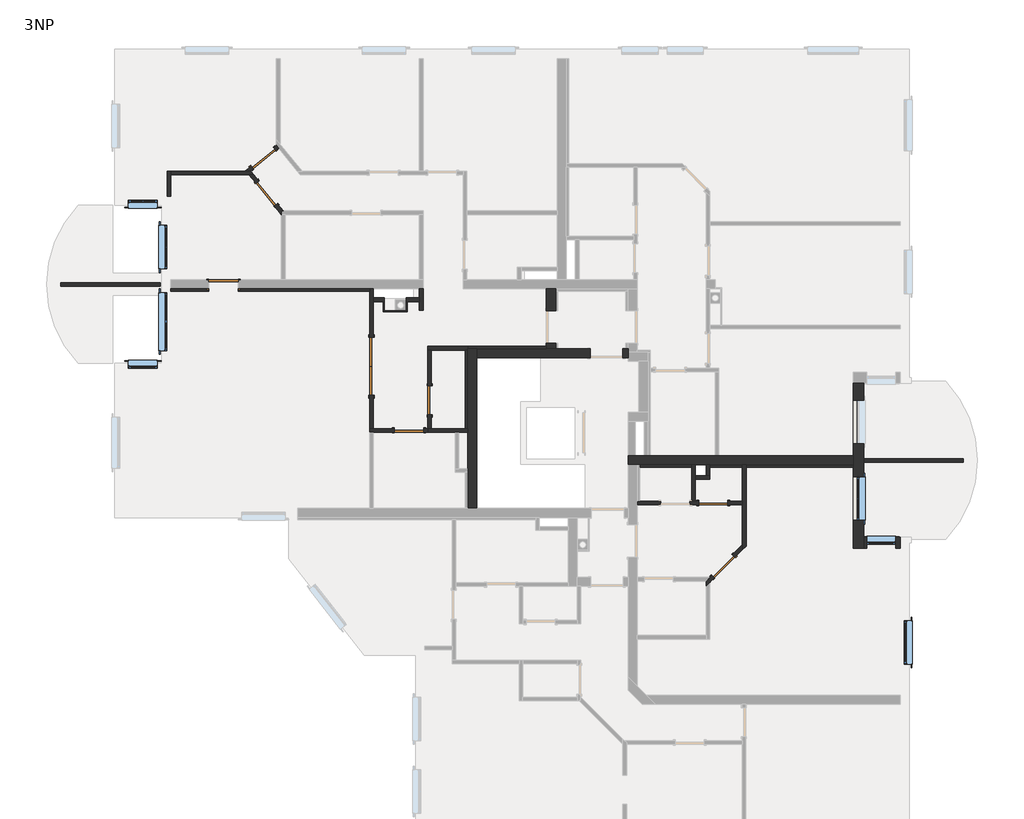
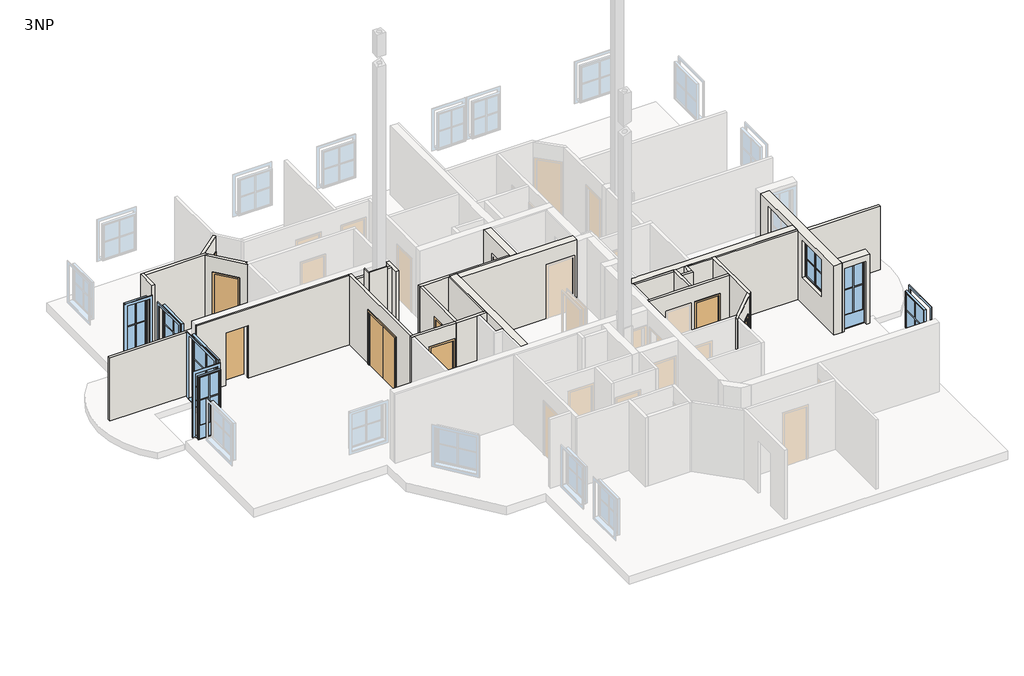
# One storey, part 2 of 4: 35 walls, 8 doors, 7 windows.
"""IFC4 building model written with IfcOpenShell, lengths in millimetres."""

from ifc_helpers import new_model, si_unit, frame, origin, place, context, project, spatial, polyline, outline, extrude, faceted_brep, transform, mapped, element, save
from components import door_1600_x_2000mm_ba48827e, sd_800x2000_6a16926d, sd_800x2000_80f4ff25, sd_800x2000_0203fe2f, standard_window_with_mullions_80486b60, window_1_87741a49, window_2_4fa60929, window_2_775565f5

model = new_model("IFC4")

# Units and contexts
model_context = context("Model", 3, world=origin())
ifc_project = project(units=[si_unit("LENGTHUNIT", "METRE", prefix="MILLI")], contexts=[model_context])

# Site, building, storey
site = spatial("IfcSite", under=ifc_project)
building = spatial("IfcBuilding", under=site)
storey = spatial("IfcBuildingStorey", under=building, Name="3NP", Elevation=5900.0)

# Doors
placement = place(None, origin())
door_1600_x_2000mm_shape = door_1600_x_2000mm_ba48827e(model_context)
element("IfcDoor", 1, ObjectType="DvoukridleOtevirave : 1600 x 2000mm", at=placement, inside=storey, context=model_context, shape_type="MappedRepresentation", body=[
    mapped(door_1600_x_2000mm_shape, transform((-5507.1962165, 2081.2918521, 5900.0), x_axis=(0.0, 1.0, 0.0), y_axis=(-1.0, 0.0, 0.0), z_axis=(0.0, 0.0, 1.0))),
])
sd_800x2000_shape = sd_800x2000_6a16926d(model_context)
element("IfcDoor", 2, ObjectType="JednokridlePlne : SD 800x2000", at=placement, inside=storey, context=model_context, shape_type="MappedRepresentation", body=[
    mapped(sd_800x2000_shape, transform((4190.1336236, -3425.7517839, 5900.0), x_axis=(0.7071067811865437, 0.7071067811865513, 0.0), y_axis=(-0.7071067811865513, 0.7071067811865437, 0.0), z_axis=(0.0, 0.0, 1.0))),
])
element("IfcDoor", 3, ObjectType="JednokridlePlne : SD 800x2000", at=placement, inside=storey, context=model_context, shape_type="MappedRepresentation", body=[
    mapped(sd_800x2000_shape, transform((3909.4426418, -1682.3709459, 5900.0), x_axis=(1.0, 0.0, 0.0), y_axis=(0.0, 1.0, 0.0), z_axis=(0.0, 0.0, 1.0))),
])
element("IfcDoor", 4, ObjectType="JednokridlePlne : SD 800x2000", at=placement, inside=storey, context=model_context, shape_type="MappedRepresentation", body=[
    mapped(sd_800x2000_shape, transform((-8487.7895253, 7819.2928874, 5900.0), x_axis=(0.774832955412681, 0.6321660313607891, 0.0), y_axis=(-0.6321660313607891, 0.774832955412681, 0.0), z_axis=(0.0, 0.0, 1.0))),
])
element("IfcDoor", 5, ObjectType="JednokridlePlne : SD 800x2000", at=placement, inside=storey, context=model_context, shape_type="MappedRepresentation", body=[
    mapped(sd_800x2000_shape, transform((-8399.7238913, 6849.2373561, 5900.0), x_axis=(0.632166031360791, -0.7748329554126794, 0.0), y_axis=(0.7748329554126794, 0.632166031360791, 0.0), z_axis=(0.0, 0.0, 1.0))),
])
sd_800x2000_2_shape = sd_800x2000_80f4ff25(model_context)
element("IfcDoor", 6, ObjectType="JednokridlePlne : SD 800x2000", at=placement, inside=storey, context=model_context, shape_type="MappedRepresentation", body=[
    mapped(sd_800x2000_2_shape, transform((-3907.1962165, 1147.6290512, 5900.0), x_axis=(0.0, 0.9999999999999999, 0.0), y_axis=(-0.9999999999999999, 0.0, 0.0), z_axis=(0.0, 0.0, 1.0))),
])
element("IfcDoor", 7, ObjectType="JednokridlePlne : SD 800x2000", at=placement, inside=storey, context=model_context, shape_type="MappedRepresentation", body=[
    mapped(sd_800x2000_2_shape, transform((-4475.9642734, 317.6290541, 5900.0), x_axis=(-0.9999999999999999, 0.0, 0.0), y_axis=(0.0, -0.9999999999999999, 0.0), z_axis=(0.0, 0.0, 1.0))),
])
sd_800x2000_3_shape = sd_800x2000_0203fe2f(model_context)
element("IfcDoor", 8, ObjectType="JednokridlePlne : SD 800x2000", at=placement, inside=storey, context=model_context, shape_type="MappedRepresentation", body=[
    mapped(sd_800x2000_3_shape, transform((-9588.4360939, 4342.6290541, 5900.0), x_axis=(-1.0, 0.0, 0.0), y_axis=(0.0, -1.0, 0.0), z_axis=(0.0, 0.0, 1.0))),
])

# Walls
element("IfcWall", 9, ObjectType="Exterior - 100mm", at=placement, inside=storey, context=model_context, shape_type="SweptSolid", body=[
    extrude(outline(polyline([(-14076.3140436, 4392.6290541), (-11337.1962165, 4392.6290541), (-11337.1962165, 4292.6290541), (-14076.3140436, 4292.6290541), (-14076.3140436, 4392.6290541)])), frame((0.0, 0.0, 5900.0), z_axis=(0.0, 0.0, 1.0), x_axis=(1.0, 0.0, 0.0)), (0.0, 0.0, 1.0), 2400.0),
])
element("IfcWall", 10, ObjectType="Exterior - 100mm", at=placement, inside=storey, context=model_context, shape_type="SweptSolid", body=[
    extrude(outline(polyline([(10801.9216105, -557.3709459), (8062.8037835, -557.3709459), (8062.8037835, -457.3709459), (10801.9216105, -457.3709459), (10801.9216105, -557.3709459)])), frame((0.0, 0.0, 5900.0), z_axis=(0.0, 0.0, 1.0), x_axis=(1.0, 0.0, 0.0)), (0.0, 0.0, 1.0), 2400.0),
])
element("IfcWall", 11, ObjectType="Exterior - 250 + 50mm", at=placement, inside=storey, context=model_context, shape_type="Brep", body=[
    faceted_brep([(7762.8037835, 1617.6290541, 5900.0), (7762.8037835, -382.3709459, 5900.0), (7762.8037835, -632.3709459, 5900.0), (7762.8037835, -697.3709459, 5900.0), (7762.8037835, -2932.3709459, 5900.0), (7762.8037835, -2932.3709459, 8530.0), (7762.8037835, -697.3709459, 8530.0), (7762.8037835, -632.3709459, 8530.0), (7762.8037835, -382.3709459, 8530.0), (7762.8037835, 1617.6290541, 8530.0), (7762.8037835, 1155.9947187, 6900.0), (7762.8037835, 1155.9947187, 8300.0), (7762.8037835, -44.0052813, 8300.0), (7762.8037835, -44.0052813, 6900.0), (7762.8037835, -963.5367865, 6900.0), (7762.8037835, -963.5367865, 8300.0), (7762.8037835, -2163.5367865, 8300.0), (7762.8037835, -2163.5367865, 6900.0), (8062.8037835, -2932.3709459, 8530.0), (8062.8037835, -2932.3709459, 5900.0), (8062.8037835, -2632.3709459, 5900.0), (8062.8037835, -557.3709459, 5900.0), (8062.8037835, -457.3709459, 5900.0), (8062.8037835, 1617.6290541, 5900.0), (8062.8037835, 1617.6290541, 8530.0), (8062.8037835, -2632.3709459, 8530.0), (8062.8037835, 1155.9947187, 8300.0), (8062.8037835, 1155.9947187, 6900.0), (8062.8037835, -44.0052813, 6900.0), (8062.8037835, -44.0052813, 8300.0), (8062.8037835, -963.5367865, 8300.0), (8062.8037835, -963.5367865, 6900.0), (8062.8037835, -2163.5367865, 6900.0), (8062.8037835, -2163.5367865, 8300.0)], [[[0, 1, 2, 3, 4, 5, 6, 7, 8, 9], [10, 11, 12, 13], [14, 15, 16, 17]], [[18, 19, 20, 21, 22, 23, 24, 25], [26, 27, 28, 29], [30, 31, 32, 33]], [[4, 3, 2, 1, 0, 23, 22, 21, 20, 19]], [[5, 4, 19, 18]], [[0, 9, 24, 23]], [[24, 9, 8, 7, 6, 5, 18, 25]], [[11, 10, 27, 26]], [[12, 11, 26, 29]], [[13, 12, 29, 28]], [[10, 13, 28, 27]], [[15, 14, 31, 30]], [[16, 15, 30, 33]], [[17, 16, 33, 32]], [[14, 17, 32, 31]]]),
])
element("IfcWall", 12, ObjectType="Exterior - 250+50mm", at=placement, inside=storey, context=model_context, shape_type="SweptSolid", body=[
    extrude(outline(polyline([(8530.0, 8062.8037835), (5900.0, 8062.8037835), (5900.0, 8132.977935), (8300.0, 8132.977935), (8300.0, 8932.977935), (5900.0, 8932.977935), (5900.0, 9062.8037835), (8530.0, 9062.8037835), (8530.0, 8062.8037835)])), frame((0.0, -2932.3709459, 0.0), z_axis=(0.0, 1.0, 0.0), x_axis=(0.0, 0.0, 1.0)), (0.0, 0.0, 1.0), 300.0),
])
element("IfcWall", 13, ObjectType="Interior - 100mm", at=placement, inside=storey, context=model_context, shape_type="Brep", body=[
    faceted_brep([(-4187.1962165, 3967.6290541, 5900.0), (-4557.1962165, 3967.6290541, 5900.0), (-4557.1962165, 3967.6290541, 8530.0), (-4357.1962165, 3967.6290541, 8530.0), (-4187.1962165, 3967.6290541, 8530.0), (-4187.1962165, 3867.6290541, 5900.0), (-4187.1962165, 3867.6290541, 8530.0), (-4557.1962165, 3867.6290541, 8530.0), (-4557.1962165, 3867.6290541, 5900.0), (-4527.1962165, 3867.6290541, 5900.0)], [[[0, 1, 2, 3, 4]], [[5, 6, 7, 8, 9]], [[1, 0, 5, 9, 8]], [[2, 1, 8, 7]], [[0, 4, 6, 5]], [[4, 3, 2, 7, 6]]]),
])
element("IfcWall", 14, ObjectType="Interior - 100mm", at=placement, inside=storey, context=model_context, shape_type="Brep", body=[
    faceted_brep([(-5157.1962165, 3967.6290541, 5900.0), (-5457.1962165, 3967.6290541, 5900.0), (-5457.1962165, 3967.6290541, 8530.0), (-5157.1962165, 3967.6290541, 8530.0), (-5157.1962165, 3867.6290541, 5900.0), (-5157.1962165, 3867.6290541, 8530.0), (-5457.1962165, 3867.6290541, 8530.0), (-5457.1962165, 3867.6290541, 5900.0), (-5187.1962165, 3867.6290541, 5900.0)], [[[0, 1, 2, 3]], [[4, 5, 6, 7, 8]], [[1, 0, 4, 8, 7]], [[0, 3, 5, 4]], [[2, 1, 7, 6]], [[3, 2, 6, 5]]]),
])
element("IfcWall", 15, ObjectType="Interior - 100mm", at=placement, inside=storey, context=model_context, shape_type="Brep", body=[
    faceted_brep([(-5557.1962165, 4217.6290541, 5900.0), (-5557.1962165, 4152.6290541, 5900.0), (-5557.1962165, 2881.2918521, 5900.0), (-5557.1962165, 2881.2918521, 7900.0), (-5557.1962165, 1281.2918521, 7900.0), (-5557.1962165, 1281.2918521, 5900.0), (-5557.1962165, 367.6290541, 5900.0), (-5557.1962165, 367.6290541, 8530.0), (-5557.1962165, 4152.6290541, 8530.0), (-5557.1962165, 4217.6290541, 8530.0), (-5457.1962165, 2881.2918521, 7900.0), (-5457.1962165, 2881.2918521, 5900.0), (-5457.1962165, 3867.6290541, 5900.0), (-5457.1962165, 3967.6290541, 5900.0), (-5457.1962165, 4217.6290541, 5900.0), (-5457.1962165, 4217.6290541, 8530.0), (-5457.1962165, 3967.6290541, 8530.0), (-5457.1962165, 3867.6290541, 8530.0), (-5457.1962165, 367.6290541, 8530.0), (-5457.1962165, 367.6290541, 5900.0), (-5457.1962165, 1281.2918521, 5900.0), (-5457.1962165, 1281.2918521, 7900.0)], [[[0, 1, 2, 3, 4, 5, 6, 7, 8, 9]], [[10, 11, 12, 13, 14, 15, 16, 17, 18, 19, 20, 21]], [[14, 13, 12, 11, 2, 1, 0]], [[20, 19, 6, 5]], [[0, 9, 15, 14]], [[7, 6, 19, 18]], [[9, 8, 7, 18, 17, 16, 15]], [[3, 2, 11, 10]], [[4, 3, 10, 21]], [[5, 4, 21, 20]]]),
])
element("IfcWall", 16, ObjectType="Interior - 100mm", at=placement, inside=storey, context=model_context, shape_type="Brep", body=[
    faceted_brep([(-3957.1962165, 267.6290541, 5900.0), (-3207.1962165, 267.6290541, 5900.0), (-3107.1962165, 267.6290541, 5900.0), (-2857.1962165, 267.6290541, 5900.0), (-2857.1962165, 267.6290541, 8530.0), (-3107.1962165, 267.6290541, 8530.0), (-3207.1962165, 267.6290541, 8530.0), (-3957.1962165, 267.6290541, 8530.0), (-3957.1962165, 367.6290541, 5900.0), (-3957.1962165, 367.6290541, 8530.0), (-3857.1962165, 367.6290541, 8530.0), (-2922.1962165, 367.6290541, 8530.0), (-2857.1962165, 367.6290541, 8530.0), (-2857.1962165, 367.6290541, 5900.0), (-2922.1962165, 367.6290541, 5900.0), (-3857.1962165, 367.6290541, 5900.0)], [[[0, 1, 2, 3, 4, 5, 6, 7]], [[8, 9, 10, 11, 12, 13, 14, 15]], [[3, 2, 1, 0, 8, 15, 14, 13]], [[0, 7, 9, 8]], [[4, 3, 13, 12]], [[7, 6, 5, 4, 12, 11, 10, 9]]]),
])
element("IfcWall", 17, ObjectType="Interior - 100mm", at=placement, inside=storey, context=model_context, shape_type="Brep", body=[
    faceted_brep([(-4187.1962165, 4217.6290541, 5900.0), (-4187.1962165, 3967.6290541, 5900.0), (-4187.1962165, 3867.6290541, 5900.0), (-4187.1962165, 3632.0533539, 5900.0), (-4187.1962165, 3632.0533539, 8530.0), (-4187.1962165, 3867.6290541, 8530.0), (-4187.1962165, 3967.6290541, 8530.0), (-4187.1962165, 4217.6290541, 8530.0), (-4087.1962165, 4217.6290541, 5900.0), (-4087.1962165, 4217.6290541, 8530.0), (-4087.1962165, 3632.0533539, 8530.0), (-4087.1962165, 3632.0533539, 5900.0)], [[[0, 1, 2, 3, 4, 5, 6, 7]], [[8, 9, 10, 11]], [[3, 2, 1, 0, 8, 11]], [[4, 3, 11, 10]], [[0, 7, 9, 8]], [[7, 6, 5, 4, 10, 9]]]),
])
element("IfcWall", 18, ObjectType="Interior - 100mm", at=placement, inside=storey, context=model_context, shape_type="Brep", body=[
    faceted_brep([(-2857.1962165, 2632.6290541, 5900.0), (-3957.1962165, 2632.6290541, 5900.0), (-3957.1962165, 2632.6290541, 8530.0), (-2857.1962165, 2632.6290541, 8530.0), (-2857.1962165, 2532.6290541, 5900.0), (-2857.1962165, 2532.6290541, 8530.0), (-2922.1962165, 2532.6290541, 8530.0), (-3857.1962165, 2532.6290541, 8530.0), (-3957.1962165, 2532.6290541, 8530.0), (-3957.1962165, 2532.6290541, 5900.0), (-3857.1962165, 2532.6290541, 5900.0), (-2922.1962165, 2532.6290541, 5900.0), (-2857.1962165, 2567.6290541, 5900.0), (-2857.1962165, 2567.6290541, 8530.0)], [[[0, 1, 2, 3]], [[4, 5, 6, 7, 8, 9, 10, 11]], [[1, 0, 12, 4, 11, 10, 9]], [[2, 1, 9, 8]], [[0, 3, 13, 5, 4, 12]], [[3, 2, 8, 7, 6, 5, 13]]]),
])
element("IfcWall", 19, ObjectType="Interior - 100mm", at=placement, inside=storey, context=model_context, shape_type="SweptSolid", body=[
    extrude(outline(polyline([(2532.6290541, 5900.0), (1547.6290512, 5900.0), (1547.6290512, 7900.0), (747.6290512, 7900.0), (747.6290512, 5900.0), (367.6290541, 5900.0), (367.6290541, 8530.0), (2532.6290541, 8530.0), (2532.6290541, 5900.0)])), frame((-3957.1962165, 0.0, 0.0), z_axis=(1.0, 0.0, 0.0), x_axis=(0.0, 1.0, 0.0)), (0.0, 0.0, 1.0), 100.0),
])
element("IfcWall", 20, ObjectType="Interior - 100mm", at=placement, inside=storey, context=model_context, shape_type="Brep", body=[
    faceted_brep([(4712.8037835, -632.3709459, 5900.0), (4712.8037835, -697.3709459, 5900.0), (4712.8037835, -1632.3709459, 5900.0), (4712.8037835, -1732.3709459, 5900.0), (4712.8037835, -2832.3709459, 5900.0), (4712.8037835, -2973.7923022, 5900.0), (4712.8037835, -2973.7923022, 8530.0), (4712.8037835, -2832.3709459, 8530.0), (4712.8037835, -1732.3709459, 8530.0), (4712.8037835, -1632.3709459, 8530.0), (4712.8037835, -697.3709459, 8530.0), (4712.8037835, -632.3709459, 8530.0), (4812.8037835, -632.3709459, 5900.0), (4812.8037835, -632.3709459, 8530.0), (4812.8037835, -697.3709459, 8530.0), (4812.8037835, -2873.7923022, 8530.0), (4812.8037835, -2873.7923022, 5900.0), (4812.8037835, -697.3709459, 5900.0)], [[[0, 1, 2, 3, 4, 5, 6, 7, 8, 9, 10, 11]], [[12, 13, 14, 15, 16, 17]], [[5, 4, 3, 2, 1, 0, 12, 17, 16]], [[6, 5, 16, 15]], [[0, 11, 13, 12]], [[11, 10, 9, 8, 7, 6, 15, 14, 13]]]),
])
element("IfcWall", 21, ObjectType="Interior - 100mm", at=placement, inside=storey, context=model_context, shape_type="Brep", body=[
    faceted_brep([(4712.8037835, -2832.3709459, 5900.0), (4437.620997, -3107.5537324, 5900.0), (4437.620997, -3107.5537324, 7900.0), (3871.935572, -3673.2391573, 7900.0), (3871.935572, -3673.2391573, 5900.0), (3812.8037835, -3732.3709459, 5900.0), (3712.8037835, -3832.3709459, 5900.0), (3712.8037835, -3832.3709459, 8530.0), (3812.8037835, -3732.3709459, 8530.0), (4712.8037835, -2832.3709459, 8530.0), (4508.3316751, -3178.2644105, 7900.0), (4508.3316751, -3178.2644105, 5900.0), (4712.8037835, -2973.7923022, 5900.0), (4712.8037835, -2973.7923022, 8530.0), (3812.8037835, -3873.7923022, 8530.0), (3712.8037835, -3973.7923022, 8530.0), (3712.8037835, -3973.7923022, 5900.0), (3812.8037835, -3873.7923022, 5900.0), (3942.6462502, -3743.9498355, 5900.0), (3942.6462502, -3743.9498355, 7900.0)], [[[0, 1, 2, 3, 4, 5, 6, 7, 8, 9]], [[10, 11, 12, 13, 14, 15, 16, 17, 18, 19]], [[12, 11, 1, 0]], [[18, 17, 16, 6, 5, 4]], [[7, 6, 16, 15]], [[0, 9, 13, 12]], [[9, 8, 7, 15, 14, 13]], [[2, 1, 11, 10]], [[3, 2, 10, 19]], [[4, 3, 19, 18]]]),
])
element("IfcWall", 22, ObjectType="Interior - 100mm", at=placement, inside=storey, context=model_context, shape_type="Brep", body=[
    faceted_brep([(2465.7332503, -1632.3709459, 7900.0), (2465.7332503, -1632.3709459, 5900.0), (1877.8037835, -1632.3709459, 5900.0), (1812.8079235, -1632.3709459, 5900.0), (1812.8079235, -1632.3709459, 8530.0), (1877.8037835, -1632.3709459, 8530.0), (3312.8037835, -1632.3709459, 8530.0), (3412.8037835, -1632.3709459, 8530.0), (4712.8037835, -1632.3709459, 8530.0), (4712.8037835, -1632.3709459, 5900.0), (4309.4426418, -1632.3709459, 5900.0), (4309.4426418, -1632.3709459, 7900.0), (3509.4426418, -1632.3709459, 7900.0), (3509.4426418, -1632.3709459, 5900.0), (3412.8037835, -1632.3709459, 5900.0), (3312.8037835, -1632.3709459, 5900.0), (3265.7332503, -1632.3709459, 5900.0), (3265.7332503, -1632.3709459, 7900.0), (1812.8078421, -1732.3709459, 5900.0), (2465.7332503, -1732.3709459, 5900.0), (2465.7332503, -1732.3709459, 7900.0), (3265.7332503, -1732.3709459, 7900.0), (3265.7332503, -1732.3709459, 5900.0), (3509.4426418, -1732.3709459, 5900.0), (3509.4426418, -1732.3709459, 7900.0), (4309.4426418, -1732.3709459, 7900.0), (4309.4426418, -1732.3709459, 5900.0), (4712.8037835, -1732.3709459, 5900.0), (4712.8037835, -1732.3709459, 8530.0), (1812.8078421, -1732.3709459, 8530.0)], [[[0, 1, 2, 3, 4, 5, 6, 7, 8, 9, 10, 11, 12, 13, 14, 15, 16, 17]], [[18, 19, 20, 21, 22, 23, 24, 25, 26, 27, 28, 29]], [[27, 26, 10, 9]], [[3, 2, 1, 19, 18]], [[16, 15, 14, 13, 23, 22]], [[4, 3, 18, 29]], [[9, 8, 28, 27]], [[8, 7, 6, 5, 4, 29, 28]], [[11, 10, 26, 25]], [[12, 11, 25, 24]], [[13, 12, 24, 23]], [[20, 19, 1, 0]], [[21, 20, 0, 17]], [[22, 21, 17, 16]]]),
])
element("IfcWall", 23, ObjectType="Interior - 100mm", at=placement, inside=storey, context=model_context, shape_type="Brep", body=[
    faceted_brep([(3312.8037835, -632.3709459, 5900.0), (3312.8037835, -697.3709459, 5900.0), (3312.8037835, -1632.3709459, 5900.0), (3312.8037835, -1632.3709459, 8530.0), (3312.8037835, -697.3709459, 8530.0), (3312.8037835, -632.3709459, 8530.0), (3412.8037835, -632.3709459, 5900.0), (3412.8037835, -632.3709459, 8530.0), (3412.8037835, -932.3709459, 8530.0), (3412.8037835, -1032.3709459, 8530.0), (3412.8037835, -1632.3709459, 8530.0), (3412.8037835, -1632.3709459, 5900.0), (3412.8037835, -1032.3709459, 5900.0), (3412.8037835, -932.3709459, 5900.0)], [[[0, 1, 2, 3, 4, 5]], [[6, 7, 8, 9, 10, 11, 12, 13]], [[2, 1, 0, 6, 13, 12, 11]], [[0, 5, 7, 6]], [[3, 2, 11, 10]], [[5, 4, 3, 10, 9, 8, 7]]]),
])
element("IfcWall", 24, ObjectType="Interior - 100mm", at=placement, inside=storey, context=model_context, shape_type="Brep", body=[
    faceted_brep([(3412.8037835, -1032.3709459, 5900.0), (3812.8037835, -1032.3709459, 5900.0), (3812.8037835, -1032.3709459, 8530.0), (3412.8037835, -1032.3709459, 8530.0), (3412.8037835, -932.3709459, 5900.0), (3412.8037835, -932.3709459, 8530.0), (3712.8037835, -932.3709459, 8530.0), (3812.8037835, -932.3709459, 8530.0), (3812.8037835, -932.3709459, 5900.0), (3712.8037835, -932.3709459, 5900.0)], [[[0, 1, 2, 3]], [[4, 5, 6, 7, 8, 9]], [[1, 0, 4, 9, 8]], [[2, 1, 8, 7]], [[0, 3, 5, 4]], [[3, 2, 7, 6, 5]]]),
])
element("IfcWall", 25, ObjectType="Interior - 100mm", at=placement, inside=storey, context=model_context, shape_type="Brep", body=[
    faceted_brep([(3812.8037835, -932.3709459, 5900.0), (3812.8037835, -697.3709459, 5900.0), (3812.8037835, -632.3709459, 5900.0), (3812.8037835, -632.3709459, 8530.0), (3812.8037835, -697.3709459, 8530.0), (3812.8037835, -932.3709459, 8530.0), (3712.8037835, -932.3709459, 5900.0), (3712.8037835, -932.3709459, 8530.0), (3712.8037835, -632.3709459, 8530.0), (3712.8037835, -632.3709459, 5900.0)], [[[0, 1, 2, 3, 4, 5]], [[6, 7, 8, 9]], [[2, 1, 0, 6, 9]], [[0, 5, 7, 6]], [[3, 2, 9, 8]], [[5, 4, 3, 8, 7]]]),
])
element("IfcWall", 26, ObjectType="Interior - 100mm", at=placement, inside=storey, context=model_context, shape_type="Brep", body=[
    faceted_brep([(-5557.1962165, 267.6290541, 5900.0), (-5457.1962165, 267.6290541, 5900.0), (-4875.9642734, 267.6290541, 5900.0), (-4875.9642734, 267.6290541, 7900.0), (-4075.9642734, 267.6290541, 7900.0), (-4075.9642734, 267.6290541, 5900.0), (-3957.1962165, 267.6290541, 5900.0), (-3957.1962165, 267.6290541, 8530.0), (-5457.1962165, 267.6290541, 8530.0), (-5557.1962165, 267.6290541, 8530.0), (-4875.9642734, 367.6290541, 7900.0), (-4875.9642734, 367.6290541, 5900.0), (-5457.1962165, 367.6290541, 5900.0), (-5557.1962165, 367.6290541, 5900.0), (-5557.1962165, 367.6290541, 8530.0), (-5457.1962165, 367.6290541, 8530.0), (-3957.1962165, 367.6290541, 8530.0), (-3957.1962165, 367.6290541, 5900.0), (-4075.9642734, 367.6290541, 5900.0), (-4075.9642734, 367.6290541, 7900.0)], [[[0, 1, 2, 3, 4, 5, 6, 7, 8, 9]], [[10, 11, 12, 13, 14, 15, 16, 17, 18, 19]], [[13, 12, 11, 2, 1, 0]], [[18, 17, 6, 5]], [[0, 9, 14, 13]], [[7, 6, 17, 16]], [[9, 8, 7, 16, 15, 14]], [[3, 2, 11, 10]], [[4, 3, 10, 19]], [[5, 4, 19, 18]]]),
])
element("IfcWall", 27, ObjectType="Interior - 100mm", at=placement, inside=storey, context=model_context, shape_type="Brep", body=[
    faceted_brep([(-11037.1962165, 6767.6290541, 5900.0), (-11037.1962165, 7367.6290541, 5900.0), (-11037.1962165, 7467.6290541, 5900.0), (-11037.1962165, 7467.6290541, 8530.0), (-11037.1962165, 7367.6290541, 8530.0), (-11037.1962165, 6767.6290541, 8530.0), (-11137.1962165, 6767.6290541, 5900.0), (-11137.1962165, 6767.6290541, 8530.0), (-11137.1962165, 7467.6290541, 8530.0), (-11137.1962165, 7467.6290541, 5900.0)], [[[0, 1, 2, 3, 4, 5]], [[6, 7, 8, 9]], [[2, 1, 0, 6, 9]], [[3, 2, 9, 8]], [[0, 5, 7, 6]], [[5, 4, 3, 8, 7]]]),
])
element("IfcWall", 28, ObjectType="Interior - 100mm", at=placement, inside=storey, context=model_context, shape_type="Brep", body=[
    faceted_brep([(-11037.1962165, 7367.6290541, 5900.0), (-8887.1962165, 7367.6290541, 5900.0), (-8758.1361407, 7367.6290541, 5900.0), (-8758.1361407, 7367.6290541, 8530.0), (-8887.1962165, 7367.6290541, 8530.0), (-11037.1962165, 7367.6290541, 8530.0), (-11037.1962165, 7467.6290541, 5900.0), (-11037.1962165, 7467.6290541, 8530.0), (-8997.909828, 7467.6290541, 8530.0), (-8839.7235366, 7467.6290541, 8530.0), (-8839.7235366, 7467.6290541, 5900.0), (-8997.909828, 7467.6290541, 5900.0)], [[[0, 1, 2, 3, 4, 5]], [[6, 7, 8, 9, 10, 11]], [[2, 1, 0, 6, 11, 10]], [[3, 2, 10, 9]], [[0, 5, 7, 6]], [[5, 4, 3, 9, 8, 7]]]),
])
element("IfcWall", 29, ObjectType="Interior - 100mm", at=placement, inside=storey, context=model_context, shape_type="Brep", body=[
    faceted_brep([(-8185.5991266, 6507.6958724, 7900.0), (-8185.5991266, 6507.6958724, 5900.0), (-7989.734861, 6267.6290541, 5900.0), (-7989.734861, 6267.6290541, 8530.0), (-8887.1962165, 7367.6290541, 8530.0), (-8887.1962165, 7367.6290541, 5900.0), (-8691.3319517, 7127.5622367, 5900.0), (-8691.3319517, 7127.5622367, 7900.0), (-7942.2621811, 6367.6290541, 5900.0), (-8108.115831, 6570.9124755, 5900.0), (-8108.115831, 6570.9124755, 7900.0), (-8613.8486561, 7190.7788398, 7900.0), (-8613.8486561, 7190.7788398, 5900.0), (-8758.1361407, 7367.6290541, 5900.0), (-8758.1361407, 7367.6290541, 8530.0), (-7942.2621811, 6367.6290541, 8530.0), (-7989.734861, 6367.6290541, 5900.0), (-7989.734861, 6367.6290541, 8530.0)], [[[0, 1, 2, 3, 4, 5, 6, 7]], [[8, 9, 10, 11, 12, 13, 14, 15]], [[2, 1, 9, 8, 16]], [[6, 5, 13, 12]], [[5, 4, 14, 13]], [[3, 2, 16, 17]], [[16, 8, 15, 17]], [[4, 3, 17, 15, 14]], [[10, 9, 1, 0]], [[11, 10, 0, 7]], [[12, 11, 7, 6]]]),
])
element("IfcWall", 30, ObjectType="Interior - 100mm", at=placement, inside=storey, context=model_context, shape_type="Brep", body=[
    faceted_brep([(-8146.2480415, 8033.4176522, 7900.0), (-8146.2480415, 8033.4176522, 5900.0), (-8064.8905812, 8099.7950854, 5900.0), (-8064.8905812, 8099.7950854, 8530.0), (-8839.7235366, 7467.6290541, 8530.0), (-8839.7235366, 7467.6290541, 5900.0), (-8766.1144059, 7527.6848271, 5900.0), (-8766.1144059, 7527.6848271, 7900.0), (-8128.1071844, 8177.278381, 5900.0), (-8209.4646447, 8110.9009477, 5900.0), (-8209.4646447, 8110.9009477, 7900.0), (-8829.331009, 7605.1681226, 7900.0), (-8829.331009, 7605.1681226, 5900.0), (-8997.909828, 7467.6290541, 5900.0), (-8997.909828, 7467.6290541, 8530.0), (-8128.1071844, 8177.278381, 8530.0)], [[[0, 1, 2, 3, 4, 5, 6, 7]], [[8, 9, 10, 11, 12, 13, 14, 15]], [[2, 1, 9, 8]], [[6, 5, 13, 12]], [[3, 2, 8, 15]], [[5, 4, 14, 13]], [[4, 3, 15, 14]], [[10, 9, 1, 0]], [[11, 10, 0, 7]], [[12, 11, 7, 6]]]),
])
element("IfcWall", 31, ObjectType="Interior - 250mm", at=placement, inside=storey, context=model_context, shape_type="Brep", body=[
    faceted_brep([(7762.8037835, -382.3709459, 5900.0), (4062.8037835, -382.3709459, 5900.0), (3962.8037835, -382.3709459, 5900.0), (2177.8037835, -382.3709459, 5900.0), (2112.8037835, -382.3709459, 5900.0), (2012.8037835, -382.3709459, 5900.0), (1762.8087381, -382.3709459, 5900.0), (1562.8087381, -382.3709459, 5900.0), (1562.8087381, -382.3709459, 8530.0), (1762.8087381, -382.3709459, 8530.0), (2012.8037835, -382.3709459, 8530.0), (2112.8037835, -382.3709459, 8530.0), (2177.8037835, -382.3709459, 8530.0), (3962.8037835, -382.3709459, 8530.0), (4062.8037835, -382.3709459, 8530.0), (7762.8037835, -382.3709459, 8530.0), (7762.8037835, -632.3709459, 5900.0), (7762.8037835, -632.3709459, 8530.0), (4812.8037835, -632.3709459, 8530.0), (4712.8037835, -632.3709459, 8530.0), (3812.8037835, -632.3709459, 8530.0), (3712.8037835, -632.3709459, 8530.0), (3412.8037835, -632.3709459, 8530.0), (3312.8037835, -632.3709459, 8530.0), (1812.8087381, -632.3709459, 8530.0), (1562.8087381, -632.3709459, 8530.0), (1562.8087381, -632.3709459, 5900.0), (1812.8087381, -632.3709459, 5900.0), (3312.8037835, -632.3709459, 5900.0), (3412.8037835, -632.3709459, 5900.0), (3712.8037835, -632.3709459, 5900.0), (3812.8037835, -632.3709459, 5900.0), (4712.8037835, -632.3709459, 5900.0), (4812.8037835, -632.3709459, 5900.0)], [[[0, 1, 2, 3, 4, 5, 6, 7, 8, 9, 10, 11, 12, 13, 14, 15]], [[16, 17, 18, 19, 20, 21, 22, 23, 24, 25, 26, 27, 28, 29, 30, 31, 32, 33]], [[7, 6, 5, 4, 3, 2, 1, 0, 16, 33, 32, 31, 30, 29, 28, 27, 26]], [[8, 7, 26, 25]], [[0, 15, 17, 16]], [[15, 14, 13, 12, 11, 10, 9, 8, 25, 24, 23, 22, 21, 20, 19, 18, 17]]]),
])
element("IfcWall", 32, ObjectType="Interior - 250mm", at=placement, inside=storey, context=model_context, shape_type="Brep", body=[
    faceted_brep([(517.0786115, 2567.6290541, 7900.0), (517.0786115, 2567.6290541, 5900.0), (-372.1962165, 2567.6290541, 5900.0), (-437.1962165, 2567.6290541, 5900.0), (-687.1962165, 2567.6290541, 5900.0), (-2607.1962165, 2567.6290541, 5900.0), (-2607.1962165, 2567.6290541, 8530.0), (-687.1962165, 2567.6290541, 8530.0), (-437.1962165, 2567.6290541, 8530.0), (-372.1962165, 2567.6290541, 8530.0), (1497.8037835, 2567.6290541, 8530.0), (1562.8037835, 2567.6290541, 8530.0), (1562.8037835, 2567.6290541, 5900.0), (1497.8037835, 2567.6290541, 5900.0), (1417.0786115, 2567.6290541, 5900.0), (1417.0786115, 2567.6290541, 7900.0), (-2607.1962165, 2317.6290541, 5900.0), (517.0786115, 2317.6290541, 5900.0), (517.0786115, 2317.6290541, 7900.0), (1417.0786115, 2317.6290541, 7900.0), (1417.0786115, 2317.6290541, 5900.0), (1562.8037835, 2317.6290541, 5900.0), (1562.8037835, 2317.6290541, 8530.0), (-857.1962165, 2317.6290541, 8530.0), (-2607.1962165, 2317.6290541, 8530.0), (1562.8037835, 2467.6290541, 5900.0), (1562.8037835, 2467.6290541, 8530.0)], [[[0, 1, 2, 3, 4, 5, 6, 7, 8, 9, 10, 11, 12, 13, 14, 15]], [[16, 17, 18, 19, 20, 21, 22, 23, 24]], [[5, 4, 3, 2, 1, 17, 16]], [[14, 13, 12, 25, 21, 20]], [[12, 11, 26, 22, 21, 25]], [[6, 5, 16, 24]], [[11, 10, 9, 8, 7, 6, 24, 23, 22, 26]], [[18, 17, 1, 0]], [[19, 18, 0, 15]], [[20, 19, 15, 14]]]),
])
element("IfcWall", 33, ObjectType="Interior - 250mm", at=placement, inside=storey, context=model_context, shape_type="Brep", body=[
    faceted_brep([(-2857.1962165, 2567.6290541, 5900.0), (-2857.1962165, 2532.6290541, 5900.0), (-2857.1962165, 367.6290541, 5900.0), (-2857.1962165, 267.6290541, 5900.0), (-2857.1962165, -732.3709459, 5900.0), (-2857.1962165, -832.3709459, 5900.0), (-2857.1962165, -1832.3709459, 5900.0), (-2857.1962165, -1832.3709459, 8530.0), (-2857.1962165, -832.3709459, 8530.0), (-2857.1962165, -732.3709459, 8530.0), (-2857.1962165, 267.6290541, 8530.0), (-2857.1962165, 367.6290541, 8530.0), (-2857.1962165, 2532.6290541, 8530.0), (-2857.1962165, 2567.6290541, 8530.0), (-2607.1962165, 2567.6290541, 5900.0), (-2607.1962165, 2567.6290541, 8530.0), (-2607.1962165, 2317.6290541, 8530.0), (-2607.1962165, -1832.3709459, 8530.0), (-2607.1962165, -1832.3709459, 5900.0), (-2607.1962165, 2317.6290541, 5900.0)], [[[0, 1, 2, 3, 4, 5, 6, 7, 8, 9, 10, 11, 12, 13]], [[14, 15, 16, 17, 18, 19]], [[6, 5, 4, 3, 2, 1, 0, 14, 19, 18]], [[0, 13, 15, 14]], [[7, 6, 18, 17]], [[13, 12, 11, 10, 9, 8, 7, 17, 16, 15]]]),
])
element("IfcWall", 34, ObjectType="Interior - 250mm", at=placement, inside=storey, context=model_context, shape_type="Brep", body=[
    faceted_brep([(-687.1962165, 4217.6290541, 8530.0), (-687.1962165, 4217.6290541, 5900.0), (-687.1962165, 3621.1987133, 5900.0), (-687.1962165, 3621.1987133, 7900.0), (-687.1962165, 2721.1987133, 7900.0), (-687.1962165, 2721.1987133, 5900.0), (-687.1962165, 2632.6290541, 5900.0), (-687.1962165, 2567.6290541, 5900.0), (-687.1962165, 2567.6290541, 8530.0), (-687.1962165, 2632.6290541, 8530.0), (-437.1962165, 4217.6290541, 5900.0), (-437.1962165, 4217.6290541, 8530.0), (-437.1962165, 4152.6290541, 8530.0), (-437.1962165, 2567.6290541, 8530.0), (-437.1962165, 2567.6290541, 5900.0), (-437.1962165, 2721.1987133, 5900.0), (-437.1962165, 2721.1987133, 7900.0), (-437.1962165, 3621.1987133, 7900.0), (-437.1962165, 3621.1987133, 5900.0), (-437.1962165, 4152.6290541, 5900.0)], [[[0, 1, 2, 3, 4, 5, 6, 7, 8, 9]], [[10, 11, 12, 13, 14, 15, 16, 17, 18, 19]], [[1, 10, 19, 18, 2]], [[14, 7, 6, 5, 15]], [[1, 0, 11, 10]], [[8, 7, 14, 13]], [[0, 9, 8, 13, 12, 11]], [[3, 2, 18, 17]], [[4, 3, 17, 16]], [[5, 4, 16, 15]]]),
])
element("IfcWall", 35, ObjectType="Interior - 300mm", at=placement, inside=storey, context=model_context, shape_type="Brep", body=[
    faceted_brep([(-5187.1962165, 3867.6290541, 5900.0), (-5187.1962165, 3587.6290541, 5900.0), (-5187.1962165, 3587.6290541, 8850.0), (-5187.1962165, 3867.6290541, 8850.0), (-5157.1962165, 3867.6290541, 5900.0), (-5157.1962165, 3867.6290541, 8530.0), (-5157.1962165, 3867.6290541, 8850.0), (-5157.1962165, 3617.6290541, 8850.0), (-5157.1962165, 3587.6290541, 8850.0), (-5157.1962165, 3587.6290541, 5900.0), (-5157.1962165, 3617.6290541, 5900.0)], [[[0, 1, 2, 3]], [[4, 5, 6, 7, 8, 9, 10]], [[1, 0, 4, 10, 9]], [[3, 2, 8, 7, 6]], [[2, 1, 9, 8]], [[0, 3, 6, 5, 4]]]),
])
element("IfcWall", 36, ObjectType="Interior - 300mm", at=placement, inside=storey, context=model_context, shape_type="Brep", body=[
    faceted_brep([(-5157.1962165, 3587.6290541, 5900.0), (-4527.1962165, 3587.6290541, 5900.0), (-4527.1962165, 3587.6290541, 8850.0), (-5157.1962165, 3587.6290541, 8850.0), (-5157.1962165, 3617.6290541, 5900.0), (-5157.1962165, 3617.6290541, 8850.0), (-4557.1962165, 3617.6290541, 8850.0), (-4527.1962165, 3617.6290541, 8850.0), (-4527.1962165, 3617.6290541, 5900.0), (-4557.1962165, 3617.6290541, 5900.0), (-4857.1962165, 3617.6290541, 5900.0)], [[[0, 1, 2, 3]], [[4, 5, 6, 7, 8, 9, 10]], [[1, 0, 4, 10, 9, 8]], [[3, 2, 7, 6, 5]], [[2, 1, 8, 7]], [[0, 3, 5, 4]]]),
])
element("IfcWall", 37, ObjectType="Interior - 300mm", at=placement, inside=storey, context=model_context, shape_type="Brep", body=[
    faceted_brep([(-4527.1962165, 3617.6290541, 5900.0), (-4527.1962165, 3867.6290541, 5900.0), (-4527.1962165, 3867.6290541, 8850.0), (-4527.1962165, 3617.6290541, 8850.0), (-4557.1962165, 3617.6290541, 5900.0), (-4557.1962165, 3617.6290541, 8850.0), (-4557.1962165, 3867.6290541, 8850.0), (-4557.1962165, 3867.6290541, 8530.0), (-4557.1962165, 3867.6290541, 5900.0)], [[[0, 1, 2, 3]], [[4, 5, 6, 7, 8]], [[1, 0, 4, 8]], [[3, 2, 6, 5]], [[0, 3, 5, 4]], [[2, 1, 8, 7, 6]]]),
])
element("IfcWall", 38, ObjectType="Interior - 65mm", at=placement, inside=storey, context=model_context, shape_type="SweptSolid", body=[
    extrude(outline(polyline([(-2922.1962165, 367.6290541), (-2922.1962165, 2532.6290541), (-2857.1962165, 2532.6290541), (-2857.1962165, 367.6290541), (-2922.1962165, 367.6290541)])), frame((0.0, 0.0, 5900.0), z_axis=(0.0, 0.0, 1.0), x_axis=(1.0, 0.0, 0.0)), (0.0, 0.0, 1.0), 2630.0),
])
element("IfcWall", 39, ObjectType="Interior - 65mm", at=placement, inside=storey, context=model_context, shape_type="SweptSolid", body=[
    extrude(outline(polyline([(3312.8037835, -697.3709459), (1877.8037835, -697.3709459), (1877.8037835, -632.3709459), (3312.8037835, -632.3709459), (3312.8037835, -697.3709459)])), frame((0.0, 0.0, 5900.0), z_axis=(0.0, 0.0, 1.0), x_axis=(1.0, 0.0, 0.0)), (0.0, 0.0, 1.0), 2630.0),
])
element("IfcWall", 40, ObjectType="Interior - 65mm", at=placement, inside=storey, context=model_context, shape_type="SweptSolid", body=[
    extrude(outline(polyline([(4712.8037835, -697.3709459), (3812.8037835, -697.3709459), (3812.8037835, -632.3709459), (4712.8037835, -632.3709459), (4712.8037835, -697.3709459)])), frame((0.0, 0.0, 5900.0), z_axis=(0.0, 0.0, 1.0), x_axis=(1.0, 0.0, 0.0)), (0.0, 0.0, 1.0), 2630.0),
])
element("IfcWall", 41, ObjectType="Interior - 65mm", at=placement, inside=storey, context=model_context, shape_type="SweptSolid", body=[
    extrude(outline(polyline([(7762.8037835, -697.3709459), (4812.8037835, -697.3709459), (4812.8037835, -632.3709459), (7762.8037835, -632.3709459), (7762.8037835, -697.3709459)])), frame((0.0, 0.0, 5900.0), z_axis=(0.0, 0.0, 1.0), x_axis=(1.0, 0.0, 0.0)), (0.0, 0.0, 1.0), 2630.0),
])
element("IfcWall", 42, ObjectType="Interior - 65mm", at=placement, inside=storey, context=model_context, shape_type="SweptSolid", body=[
    extrude(outline(polyline([(5900.0, -5557.1962165), (8530.0, -5557.1962165), (8530.0, -11037.1962165), (5900.0, -11037.1962165), (5900.0, -9988.4360939), (7900.0, -9988.4360939), (7900.0, -9188.4360939), (5900.0, -9188.4360939), (5900.0, -5557.1962165)])), frame((0.0, 4152.6290541, 0.0), z_axis=(0.0, 1.0, 0.0), x_axis=(0.0, 0.0, 1.0)), (0.0, 0.0, 1.0), 65.0),
])
element("IfcWall", 43, ObjectType="Interior - 65mm", at=placement, inside=storey, context=model_context, shape_type="SweptSolid", body=[
    extrude(outline(polyline([(-687.1962165, 2567.6290541), (-2857.1962165, 2567.6290541), (-2857.1962165, 2632.6290541), (-687.1962165, 2632.6290541), (-687.1962165, 2567.6290541)])), frame((0.0, 0.0, 5900.0), z_axis=(0.0, 0.0, 1.0), x_axis=(1.0, 0.0, 0.0)), (0.0, 0.0, 1.0), 2630.0),
])

# Windows
standard_window_with_mullions_shape = standard_window_with_mullions_80486b60(model_context)
element("IfcWindow", 44, ObjectType="Standard Window with mullions : 1200/1400", at=placement, inside=storey, context=model_context, shape_type="MappedRepresentation", body=[
    mapped(standard_window_with_mullions_shape, transform((-11187.1962165, 5367.6290548, 5900.0), x_axis=(0.0, 1.0, 0.0), y_axis=(-1.0, 0.0, 0.0), z_axis=(0.0, 0.0, 1.0))),
])
element("IfcWindow", 45, ObjectType="Standard Window with mullions : 1200/1400", at=placement, inside=storey, context=model_context, shape_type="MappedRepresentation", body=[
    mapped(standard_window_with_mullions_shape, transform((7912.8037835, -1563.5367865, 5900.0), x_axis=(0.0, -1.0, 0.0), y_axis=(1.0, 0.0, 0.0), z_axis=(0.0, 0.0, 1.0))),
])
element("IfcWindow", 46, ObjectType="Standard Window with mullions : 1200/1400", at=placement, inside=storey, context=model_context, shape_type="MappedRepresentation", body=[
    mapped(standard_window_with_mullions_shape, transform((9212.8037835, -5524.0530367, 5900.0), x_axis=(0.0, -1.0, 0.0), y_axis=(1.0, 0.0, 0.0), z_axis=(0.0, 0.0, 1.0))),
])
window_1_shape = window_1_87741a49(model_context)
element("IfcWindow", 47, ObjectType="Window 1 : 1600/2400", at=placement, inside=storey, context=model_context, shape_type="MappedRepresentation", body=[
    mapped(window_1_shape, transform((-11187.1962165, 3317.6290559, 5900.0), x_axis=(0.0, 1.0, 0.0), y_axis=(-1.0, 0.0, 0.0), z_axis=(0.0, 0.0, 1.0))),
])
window_2_shape = window_2_4fa60929(model_context)
element("IfcWindow", 48, ObjectType="Window 2 : 800/2400", at=placement, inside=storey, context=model_context, shape_type="MappedRepresentation", body=[
    mapped(window_2_shape, transform((-11807.3703663, 2067.6290541, 5900.0), x_axis=(1.0, 0.0, 0.0), y_axis=(0.0, 1.0, 0.0), z_axis=(0.0, 0.0, 1.0))),
])
window_2_2_shape = window_2_775565f5(model_context)
element("IfcWindow", 49, ObjectType="Window 2 : 800/2400", at=placement, inside=storey, context=model_context, shape_type="MappedRepresentation", body=[
    mapped(window_2_2_shape, transform((-11807.370388, 6617.6290541, 5900.0), x_axis=(1.0, 0.0, 0.0), y_axis=(0.0, 1.0, 0.0), z_axis=(0.0, 0.0, 1.0))),
])
element("IfcWindow", 50, ObjectType="Window 2 : 800/2400", at=placement, inside=storey, context=model_context, shape_type="MappedRepresentation", body=[
    mapped(window_2_2_shape, transform((8532.977935, -2782.3709459, 5900.0), x_axis=(-1.0, 0.0, 0.0), y_axis=(0.0, -1.0, 0.0), z_axis=(0.0, 0.0, 1.0))),
])

save(model, "model.ifc")
